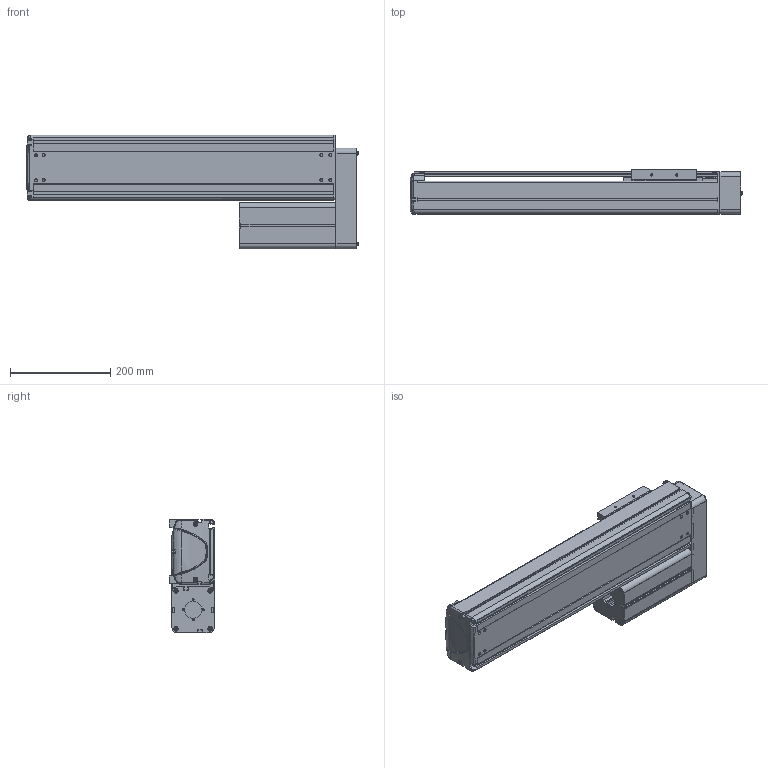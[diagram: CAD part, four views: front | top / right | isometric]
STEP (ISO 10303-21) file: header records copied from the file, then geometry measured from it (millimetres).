
FILE_DESCRIPTION((''),'2;1');
FILE_NAME('BE30E-UL-M_B-40_IGS_PRT','2017-06-17T',(' '),(''),'PRO/ENGINEER BY PARAMETRIC TECHNOLOGY CORPORATION, 2015030','PRO/ENGINEER BY PARAMETRIC TECHNOLOGY CORPORATION, 2015030','');
FILE_SCHEMA(('CONFIG_CONTROL_DESIGN'));
Products named in the file (1): BE30E-UL-M_B-40_IGS_PRT
Bounding box: 661.9 x 89.8 x 227 mm (x, y, z)
Volume: 2516273.3 mm3; surface area: 1105795.3 mm2
Topology: 2 solids, 108 shells, 1971 faces, 5283 edges, 3422 vertices
Faces by surface type: plane 990, cylinder 785, cone 103, torus 39, bspline 30, sphere 24
Entity records: 63493 total; most frequent: CARTESIAN_POINT 13382, DIRECTION 10591, ORIENTED_EDGE 10090, EDGE_CURVE 5245, AXIS2_PLACEMENT_3D 3706, VERTEX_POINT 3422, VECTOR 3179, LINE 3179
